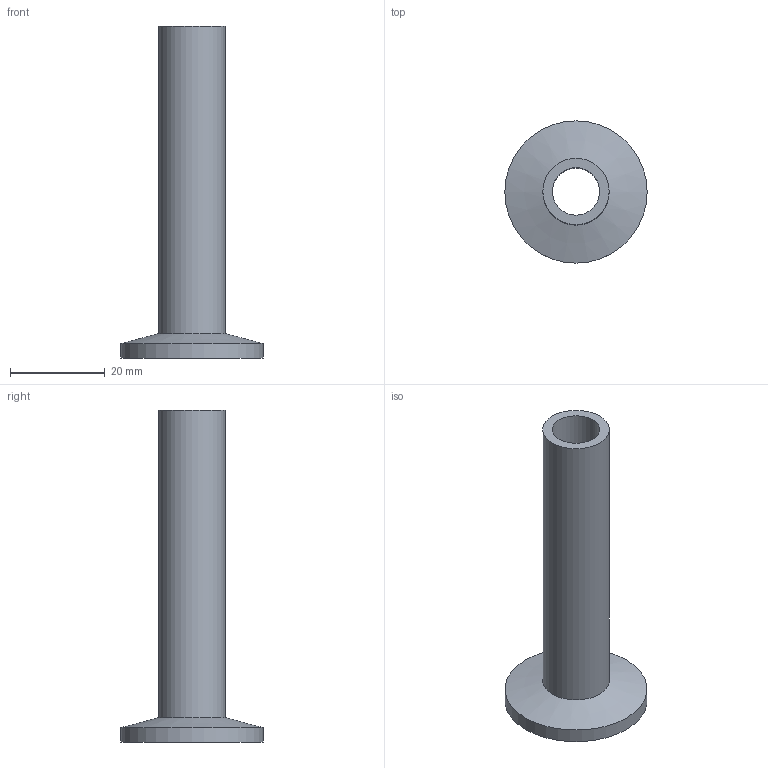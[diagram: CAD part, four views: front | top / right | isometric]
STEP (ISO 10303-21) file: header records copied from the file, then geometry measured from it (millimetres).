
FILE_DESCRIPTION( ( 'Unknown' ), '1' );
FILE_NAME( 'X:/Daten ( aktueller Bestand )/Projekte und Zeichnungen/Solid Edge/2 Bauteile KF/VA/Sonderlänge 70mm/1571-7.stp', 'Unknown', ( 'Unknown' ), ( 'Unknown' ), 'XStep 1.0', 'Unknown', ' ' );
FILE_SCHEMA( ( 'automotive_design' ) );
Length unit declared in the file: millimetre
Products named in the file (1): 1
Bounding box: 30 x 30 x 70 mm (x, y, z)
Volume: 7361.5 mm3; surface area: 6627.8 mm2
Topology: 1 solids, 1 shells, 8 faces, 13 edges, 8 vertices
Faces by surface type: cylinder 4, plane 3, cone 1
Full cylindrical faces by diameter (mm): 10 x1, 12.2 x1, 14 x1, 30 x1
Entity records: 248 total; most frequent: DIRECTION 34, CARTESIAN_POINT 25, AXIS2_PLACEMENT_3D 17, EDGE_LOOP 16, ORIENTED_EDGE 16, FACE_OUTER_BOUND 12, STYLED_ITEM 8, PRESENTATION_STYLE_ASSIGNMENT 8
